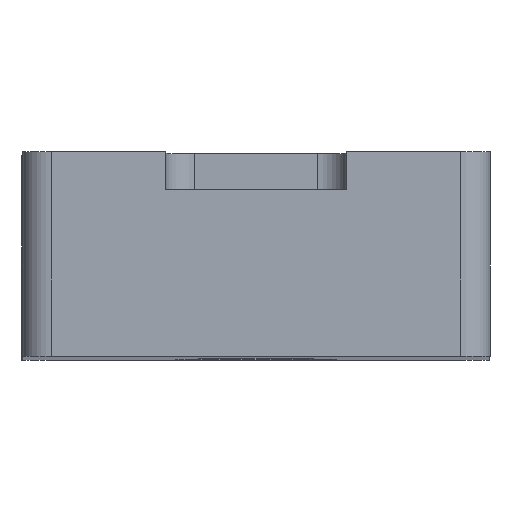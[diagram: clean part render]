
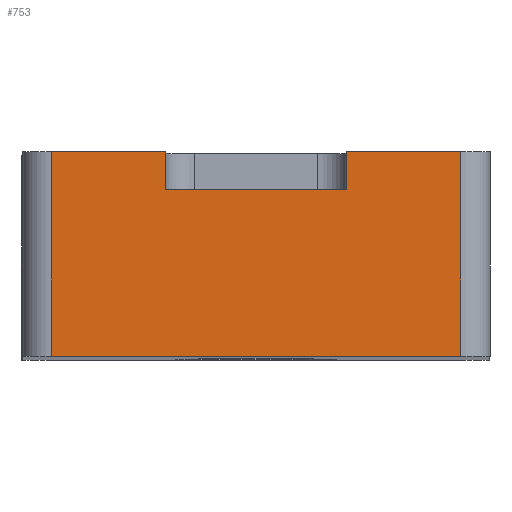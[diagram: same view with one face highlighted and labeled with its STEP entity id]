
A CAD part, top view. The second image highlights one B-rep face of the part: STEP entity #753.
In plain terms, the highlighted planar face has unit normal (0, 0, 1).
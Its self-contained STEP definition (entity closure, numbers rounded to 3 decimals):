
#53 = ORIENTED_EDGE ( 'NONE', *, *, #63, .T. ) ;
#54 = CARTESIAN_POINT ( 'NONE',  ( -8., 0., 41. ) ) ;
#63 = EDGE_CURVE ( 'NONE', #760, #805, #253, .T. ) ;
#89 = VERTEX_POINT ( 'NONE', #194 ) ;
#90 = DIRECTION ( 'NONE',  ( 1., 0., 0. ) ) ;
#120 = VECTOR ( 'NONE', #172, 1000. ) ;
#121 = ORIENTED_EDGE ( 'NONE', *, *, #375, .T. ) ;
#123 = ORIENTED_EDGE ( 'NONE', *, *, #705, .T. ) ;
#134 = ORIENTED_EDGE ( 'NONE', *, *, #340, .T. ) ;
#135 = CARTESIAN_POINT ( 'NONE',  ( 7., 7., 41. ) ) ;
#143 = ORIENTED_EDGE ( 'NONE', *, *, #978, .F. ) ;
#156 = EDGE_CURVE ( 'NONE', #89, #760, #441, .T. ) ;
#160 = VERTEX_POINT ( 'NONE', #242 ) ;
#167 = LINE ( 'NONE', #411, #587 ) ;
#172 = DIRECTION ( 'NONE',  ( 0., -1., 0. ) ) ;
#174 = EDGE_CURVE ( 'NONE', #235, #160, #662, .T. ) ;
#176 = DIRECTION ( 'NONE',  ( 1., 0., 0. ) ) ;
#184 = CARTESIAN_POINT ( 'NONE',  ( -3.1, 7., 41. ) ) ;
#194 = CARTESIAN_POINT ( 'NONE',  ( -7., 0., 41. ) ) ;
#197 = DIRECTION ( 'NONE',  ( 0., 1., 0. ) ) ;
#205 = VERTEX_POINT ( 'NONE', #885 ) ;
#219 = VECTOR ( 'NONE', #90, 1000. ) ;
#235 = VERTEX_POINT ( 'NONE', #929 ) ;
#242 = CARTESIAN_POINT ( 'NONE',  ( -3.1, 7., 41. ) ) ;
#253 = LINE ( 'NONE', #135, #862 ) ;
#264 = EDGE_CURVE ( 'NONE', #235, #89, #941, .T. ) ;
#294 = CARTESIAN_POINT ( 'NONE',  ( 3.1, 7., 41. ) ) ;
#297 = PLANE ( 'NONE',  #639 ) ;
#299 = ORIENTED_EDGE ( 'NONE', *, *, #174, .F. ) ;
#303 = VERTEX_POINT ( 'NONE', #294 ) ;
#315 = CARTESIAN_POINT ( 'NONE',  ( -8., 5.7, 41. ) ) ;
#340 = EDGE_CURVE ( 'NONE', #303, #403, #629, .T. ) ;
#375 = EDGE_CURVE ( 'NONE', #403, #205, #648, .T. ) ;
#393 = VECTOR ( 'NONE', #938, 1000. ) ;
#403 = VERTEX_POINT ( 'NONE', #430 ) ;
#411 = CARTESIAN_POINT ( 'NONE',  ( -8., 7., 41. ) ) ;
#415 = CARTESIAN_POINT ( 'NONE',  ( 7., 7., 41. ) ) ;
#430 = CARTESIAN_POINT ( 'NONE',  ( 3.1, 5.7, 41. ) ) ;
#441 = LINE ( 'NONE', #54, #1000 ) ;
#448 = ORIENTED_EDGE ( 'NONE', *, *, #156, .T. ) ;
#474 = DIRECTION ( 'NONE',  ( 0., 0., -1. ) ) ;
#517 = CARTESIAN_POINT ( 'NONE',  ( -8., 7., 41. ) ) ;
#552 = CARTESIAN_POINT ( 'NONE',  ( 7., 0., 41. ) ) ;
#575 = CARTESIAN_POINT ( 'NONE',  ( -7., 7., 41. ) ) ;
#587 = VECTOR ( 'NONE', #950, 1000. ) ;
#597 = CARTESIAN_POINT ( 'NONE',  ( 3.1, 7., 41. ) ) ;
#629 = LINE ( 'NONE', #597, #393 ) ;
#639 = AXIS2_PLACEMENT_3D ( 'NONE', #517, #474, #692 ) ;
#648 = LINE ( 'NONE', #315, #816 ) ;
#658 = EDGE_LOOP ( 'NONE', ( #143, #134, #121, #123, #299, #996, #448, #53 ) ) ;
#662 = LINE ( 'NONE', #835, #219 ) ;
#690 = DIRECTION ( 'NONE',  ( 0., 1., 0. ) ) ;
#692 = DIRECTION ( 'NONE',  ( -1., 0., 0. ) ) ;
#705 = EDGE_CURVE ( 'NONE', #205, #160, #786, .T. ) ;
#753 = ADVANCED_FACE ( 'NONE', ( #768 ), #297, .F. ) ;
#760 = VERTEX_POINT ( 'NONE', #552 ) ;
#768 = FACE_OUTER_BOUND ( 'NONE', #658, .T. ) ;
#786 = LINE ( 'NONE', #184, #988 ) ;
#805 = VERTEX_POINT ( 'NONE', #415 ) ;
#816 = VECTOR ( 'NONE', #967, 1000. ) ;
#835 = CARTESIAN_POINT ( 'NONE',  ( -8., 7., 41. ) ) ;
#862 = VECTOR ( 'NONE', #197, 1000. ) ;
#885 = CARTESIAN_POINT ( 'NONE',  ( -3.1, 5.7, 41. ) ) ;
#929 = CARTESIAN_POINT ( 'NONE',  ( -7., 7., 41. ) ) ;
#938 = DIRECTION ( 'NONE',  ( 0., -1., 0. ) ) ;
#941 = LINE ( 'NONE', #575, #120 ) ;
#950 = DIRECTION ( 'NONE',  ( 1., 0., 0. ) ) ;
#967 = DIRECTION ( 'NONE',  ( -1., 0., 0. ) ) ;
#978 = EDGE_CURVE ( 'NONE', #303, #805, #167, .T. ) ;
#988 = VECTOR ( 'NONE', #690, 1000. ) ;
#996 = ORIENTED_EDGE ( 'NONE', *, *, #264, .T. ) ;
#1000 = VECTOR ( 'NONE', #176, 1000. ) ;
